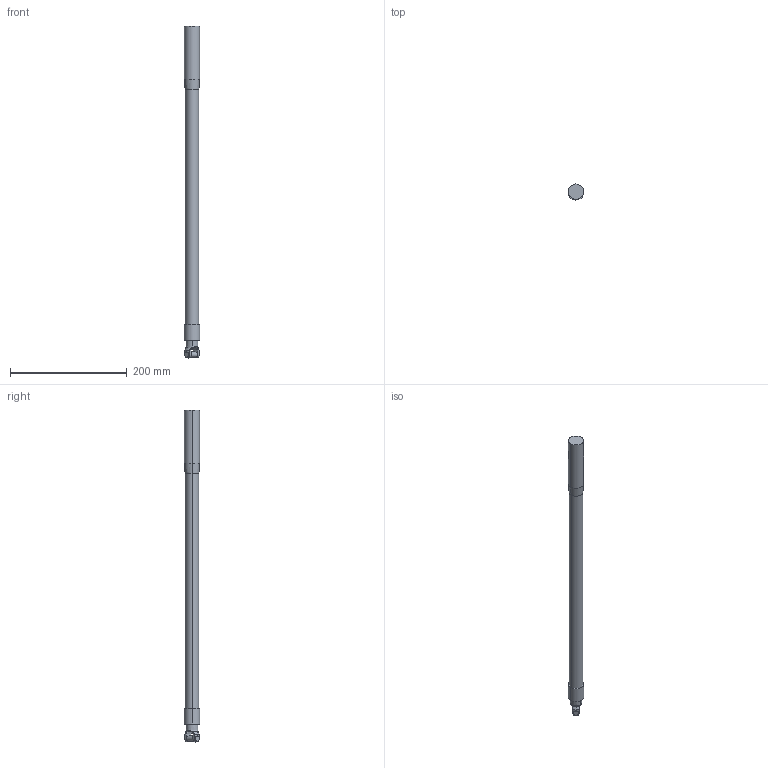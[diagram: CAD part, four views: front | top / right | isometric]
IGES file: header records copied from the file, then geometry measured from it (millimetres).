
Start section: SolidWorks IGES file using analytic representation for surfaces
Global section: file name: C:\Users\SELUHAA\OneDrive - ABB\Work items\609433\IRB360_8-1130-STD-4D_rev03\IRB360_8-1130-STD-4D_rev03_IGS_J\IRB360_8-1130-STD-4D_rev03_RevoluteLinkLower_CAD.igs; native system: SolidWorks 2022; preprocessor: SolidWorks 2022; author: SELUHAA; date: 250115.102657; units: millimetre
Bounding box: 27 x 27 x 568.8 mm (x, y, z)
Volume: 261076.4 mm3; surface area: 48167.6 mm2
Topology: 4 solids, 4 shells, 59 faces, 140 edges, 90 vertices
Faces by surface type: revolution 42, plane 17
